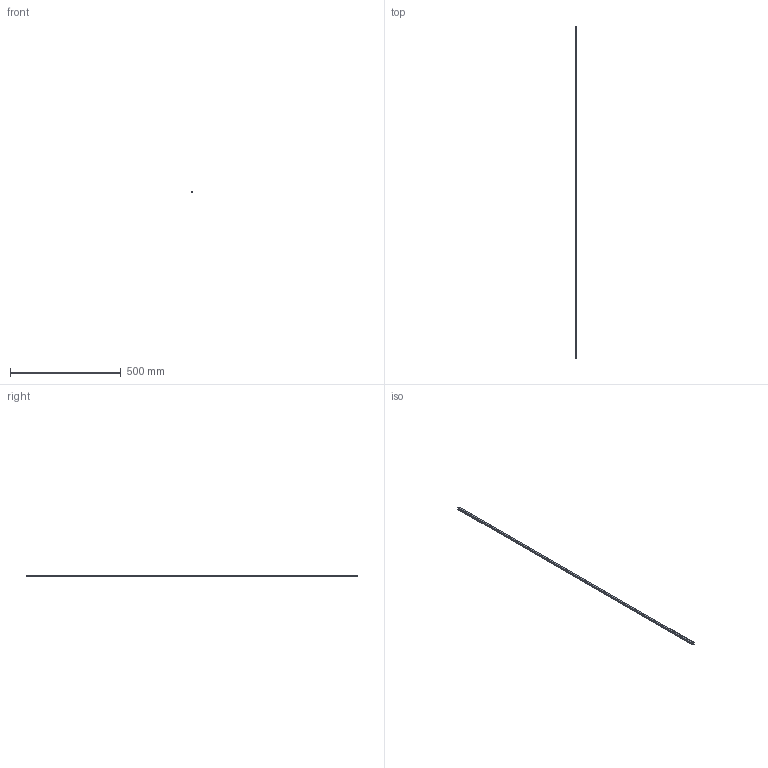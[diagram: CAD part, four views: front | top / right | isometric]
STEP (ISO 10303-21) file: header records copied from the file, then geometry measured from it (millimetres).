
FILE_DESCRIPTION(/* description */ ('9mm角ﾊﾟｲﾌﾟL1500'),/* implementation_level */ '2;1');
FILE_NAME(/* name */ 'Q503-9-1500.step',/* time_stamp */ '2026-04-13T09:29:53+09:00',/* author */ (''),/* organization */ (''),/* preprocessor_version */ 'ST-DEVELOPER v20.1',/* originating_system */ 'Autodesk Translation Framework v14.24.0.0',/* authorisation */ '');
FILE_SCHEMA (('AUTOMOTIVE_DESIGN { 1 0 10303 214 3 1 1 }'));
Length unit declared in the file: millimetre
Products named in the file (1): 2026-04-10-15-09-02-591
Bounding box: 9 x 1500 x 9 mm (x, y, z)
Volume: 48000 mm3; surface area: 96064 mm2
Topology: 1 solids, 1 shells, 10 faces, 24 edges, 16 vertices
Faces by surface type: plane 10
Entity records: 433 total; most frequent: CARTESIAN_POINT 51, ORIENTED_EDGE 48, DIRECTION 46, LINE 24, VECTOR 24, EDGE_CURVE 24, PROPERTY_DEFINITION 18, PROPERTY_DEFINITION_REPRESENTATION 17
